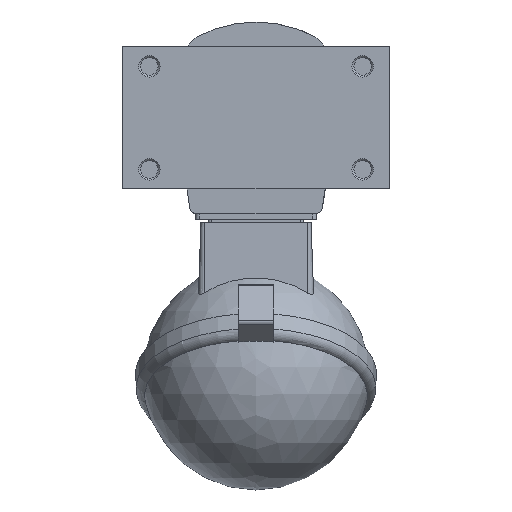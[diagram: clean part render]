
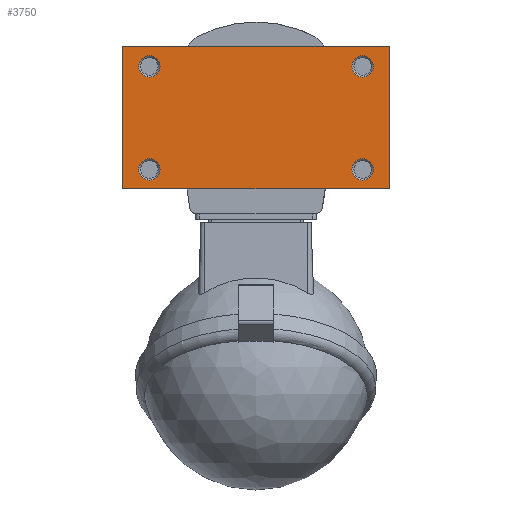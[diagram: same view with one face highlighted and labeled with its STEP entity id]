
A CAD part, front view. The second image highlights one B-rep face of the part: STEP entity #3750.
In plain terms, the highlighted planar face has unit normal (0, -1, 0).
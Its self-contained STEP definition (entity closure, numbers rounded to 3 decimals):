
#126=LINE('',#6665,#436);
#130=LINE('',#6675,#440);
#139=LINE('',#6705,#449);
#140=LINE('',#6707,#450);
#436=VECTOR('',#5475,1000.);
#440=VECTOR('',#5483,1000.);
#449=VECTOR('',#5506,1000.);
#450=VECTOR('',#5509,1000.);
#739=PLANE('',#5024);
#929=ORIENTED_EDGE('',*,*,#2005,.F.);
#930=ORIENTED_EDGE('',*,*,#2006,.F.);
#931=ORIENTED_EDGE('',*,*,#2007,.F.);
#932=ORIENTED_EDGE('',*,*,#2008,.F.);
#933=ORIENTED_EDGE('',*,*,#2004,.T.);
#934=ORIENTED_EDGE('',*,*,#1988,.F.);
#935=ORIENTED_EDGE('',*,*,#2003,.F.);
#936=ORIENTED_EDGE('',*,*,#1983,.T.);
#1983=EDGE_CURVE('',#2526,#2525,#126,.T.);
#1988=EDGE_CURVE('',#2529,#2528,#130,.T.);
#2003=EDGE_CURVE('',#2526,#2529,#139,.T.);
#2004=EDGE_CURVE('',#2525,#2528,#140,.T.);
#2005=EDGE_CURVE('',#2544,#2544,#2897,.T.);
#2006=EDGE_CURVE('',#2545,#2545,#2898,.T.);
#2007=EDGE_CURVE('',#2546,#2546,#2899,.T.);
#2008=EDGE_CURVE('',#2547,#2547,#2900,.T.);
#2525=VERTEX_POINT('',#6664);
#2526=VERTEX_POINT('',#6666);
#2528=VERTEX_POINT('',#6672);
#2529=VERTEX_POINT('',#6674);
#2544=VERTEX_POINT('',#6710);
#2545=VERTEX_POINT('',#6712);
#2546=VERTEX_POINT('',#6714);
#2547=VERTEX_POINT('',#6716);
#2897=CIRCLE('',#5025,3.);
#2898=CIRCLE('',#5026,3.);
#2899=CIRCLE('',#5027,3.);
#2900=CIRCLE('',#5028,3.);
#3082=EDGE_LOOP('',(#929));
#3083=EDGE_LOOP('',(#930));
#3084=EDGE_LOOP('',(#931));
#3085=EDGE_LOOP('',(#932));
#3086=EDGE_LOOP('',(#933,#934,#935,#936));
#3390=FACE_BOUND('',#3082,.T.);
#3391=FACE_BOUND('',#3083,.T.);
#3392=FACE_BOUND('',#3084,.T.);
#3393=FACE_BOUND('',#3085,.T.);
#3394=FACE_BOUND('',#3086,.T.);
#3750=ADVANCED_FACE('',(#3390,#3391,#3392,#3393,#3394),#739,.F.);
#5024=AXIS2_PLACEMENT_3D('',#6708,#5510,#5511);
#5025=AXIS2_PLACEMENT_3D('',#6709,#5512,#5513);
#5026=AXIS2_PLACEMENT_3D('',#6711,#5514,#5515);
#5027=AXIS2_PLACEMENT_3D('',#6713,#5516,#5517);
#5028=AXIS2_PLACEMENT_3D('',#6715,#5518,#5519);
#5475=DIRECTION('',(0.,0.,-1.));
#5483=DIRECTION('',(0.,0.,-1.));
#5506=DIRECTION('',(1.,0.,0.));
#5509=DIRECTION('',(1.,0.,0.));
#5510=DIRECTION('',(0.,1.,0.));
#5511=DIRECTION('',(0.,0.,1.));
#5512=DIRECTION('',(0.,-1.,0.));
#5513=DIRECTION('',(0.,0.,-1.));
#5514=DIRECTION('',(0.,-1.,0.));
#5515=DIRECTION('',(0.,0.,-1.));
#5516=DIRECTION('',(0.,-1.,0.));
#5517=DIRECTION('',(0.,0.,-1.));
#5518=DIRECTION('',(0.,-1.,0.));
#5519=DIRECTION('',(0.,0.,-1.));
#6664=CARTESIAN_POINT('',(-37.5,-15.,-19.99));
#6665=CARTESIAN_POINT('',(-37.5,-15.,19.99));
#6666=CARTESIAN_POINT('',(-37.5,-15.,19.99));
#6672=CARTESIAN_POINT('',(37.5,-15.,-19.99));
#6674=CARTESIAN_POINT('',(37.5,-15.,19.99));
#6675=CARTESIAN_POINT('',(37.5,-15.,19.99));
#6705=CARTESIAN_POINT('',(-37.5,-15.,19.99));
#6707=CARTESIAN_POINT('',(-37.5,-15.,-19.99));
#6708=CARTESIAN_POINT('',(19.5,-15.,0.));
#6709=CARTESIAN_POINT('',(-30.,-15.,-14.5));
#6710=CARTESIAN_POINT('',(-30.,-15.,-17.5));
#6711=CARTESIAN_POINT('',(30.,-15.,14.5));
#6712=CARTESIAN_POINT('',(30.,-15.,11.5));
#6713=CARTESIAN_POINT('',(30.,-15.,-14.5));
#6714=CARTESIAN_POINT('',(30.,-15.,-17.5));
#6715=CARTESIAN_POINT('',(-30.,-15.,14.5));
#6716=CARTESIAN_POINT('',(-30.,-15.,11.5));
